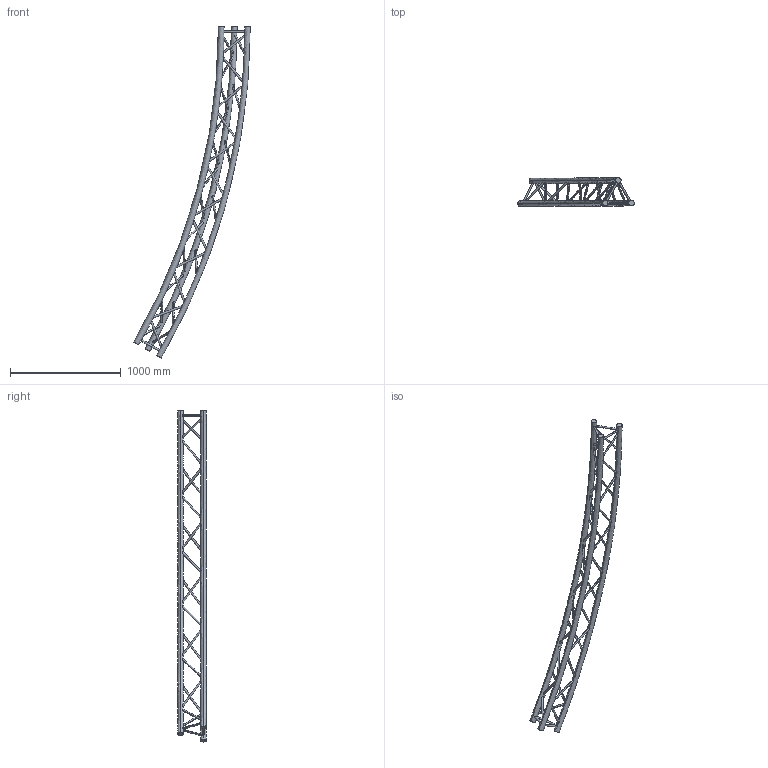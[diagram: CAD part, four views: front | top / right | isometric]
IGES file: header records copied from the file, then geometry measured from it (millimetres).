
Start section: SolidWorks IGES file using analytic representation for surfaces
Global section: file name: K:\BIBLIO\asd_biblio\SX290\Cercles\SXC291200PH\SXC291200PH.IGS; native system: SolidWorks 2009; preprocessor: SolidWorks 2009; author: des3; date: 091021.102726; units: millimetre
Bounding box: 1052.4 x 255.25 x 3000 mm (x, y, z)
Surface area: 1913440.1 mm2 (no closed solid volume)
Topology: 0 solids, 0 shells, 86 faces, 6159 edges, 6159 vertices
Faces by surface type: revolution 74, bspline 12
